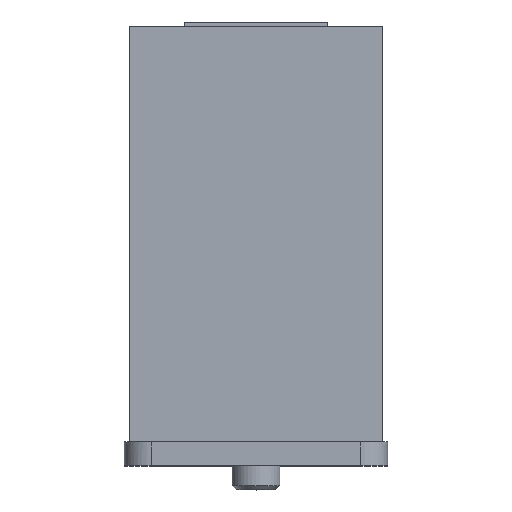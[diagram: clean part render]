
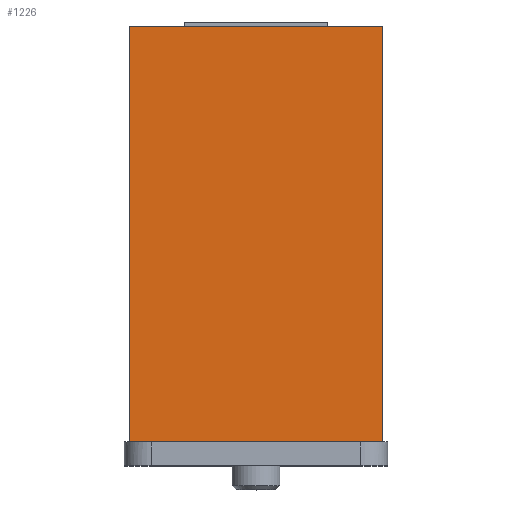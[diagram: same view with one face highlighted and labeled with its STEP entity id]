
A CAD part, top view. The second image highlights one B-rep face of the part: STEP entity #1226.
In plain terms, the highlighted planar face has unit normal (0, 0, 1).
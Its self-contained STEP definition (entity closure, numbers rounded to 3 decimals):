
#14=DIRECTION('',(1.,0.,0.));
#15=VECTOR('',#14,15.166);
#16=CARTESIAN_POINT('',(-7.583,-16.4,0.));
#17=LINE('',#16,#15);
#18=DIRECTION('',(1.,0.,0.));
#19=VECTOR('',#18,0.317);
#20=CARTESIAN_POINT('',(-7.9,-16.4,0.));
#21=LINE('',#20,#19);
#22=DIRECTION('',(0.,-1.,0.));
#23=VECTOR('',#22,26.);
#24=CARTESIAN_POINT('',(-7.9,9.6,0.));
#25=LINE('',#24,#23);
#26=DIRECTION('',(-1.,0.,0.));
#27=VECTOR('',#26,15.8);
#28=CARTESIAN_POINT('',(7.9,9.6,0.));
#29=LINE('',#28,#27);
#30=DIRECTION('',(0.,1.,0.));
#31=VECTOR('',#30,26.);
#32=CARTESIAN_POINT('',(7.9,-16.4,0.));
#33=LINE('',#32,#31);
#34=DIRECTION('',(1.,0.,0.));
#35=VECTOR('',#34,0.317);
#36=CARTESIAN_POINT('',(7.583,-16.4,0.));
#37=LINE('',#36,#35);
#937=CARTESIAN_POINT('',(-7.9,9.6,0.));
#938=CARTESIAN_POINT('',(-7.9,-16.4,0.));
#939=VERTEX_POINT('',#937);
#940=VERTEX_POINT('',#938);
#941=CARTESIAN_POINT('',(7.9,-16.4,0.));
#942=CARTESIAN_POINT('',(7.9,9.6,0.));
#943=VERTEX_POINT('',#941);
#944=VERTEX_POINT('',#942);
#993=CARTESIAN_POINT('',(-7.583,-16.4,0.));
#994=CARTESIAN_POINT('',(7.583,-16.4,0.));
#995=VERTEX_POINT('',#993);
#996=VERTEX_POINT('',#994);
#1207=CARTESIAN_POINT('',(0.,0.,0.));
#1208=DIRECTION('',(0.,0.,1.));
#1209=DIRECTION('',(1.,0.,0.));
#1210=AXIS2_PLACEMENT_3D('',#1207,#1208,#1209);
#1211=PLANE('',#1210);
#1213=ORIENTED_EDGE('',*,*,#1212,.F.);
#1215=ORIENTED_EDGE('',*,*,#1214,.F.);
#1217=ORIENTED_EDGE('',*,*,#1216,.F.);
#1219=ORIENTED_EDGE('',*,*,#1218,.F.);
#1221=ORIENTED_EDGE('',*,*,#1220,.F.);
#1223=ORIENTED_EDGE('',*,*,#1222,.F.);
#1224=EDGE_LOOP('',(#1213,#1215,#1217,#1219,#1221,#1223));
#1225=FACE_OUTER_BOUND('',#1224,.F.);
#1226=ADVANCED_FACE('',(#1225),#1211,.T.);
#1212=EDGE_CURVE('',#995,#996,#17,.T.);
#1214=EDGE_CURVE('',#940,#995,#21,.T.);
#1216=EDGE_CURVE('',#939,#940,#25,.T.);
#1218=EDGE_CURVE('',#944,#939,#29,.T.);
#1220=EDGE_CURVE('',#943,#944,#33,.T.);
#1222=EDGE_CURVE('',#996,#943,#37,.T.);
